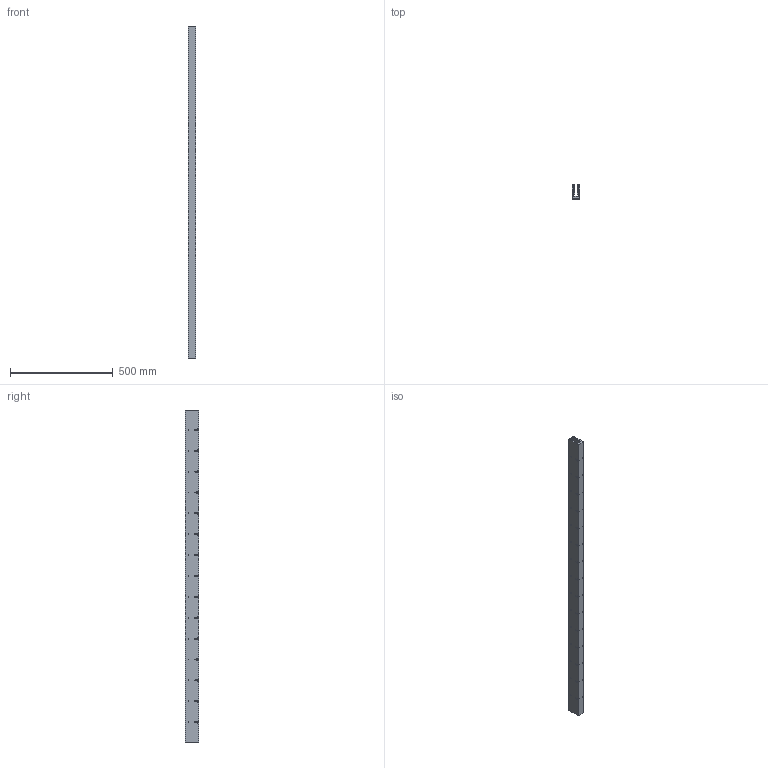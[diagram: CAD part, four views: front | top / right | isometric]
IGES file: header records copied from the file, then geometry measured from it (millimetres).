
Global section: file name: No Iges File Name specified; native system: Autodesk Inventor 2009; preprocessor: AutoDesk Inventor Iges Exporter R2009; author: je17857; date: 20091116.111811; units: inch
Bounding box: 34.29 x 67.31 x 1615.44 mm (x, y, z)
Volume: 2416696.9 mm3; surface area: 606423.4 mm2
Topology: 1 solids, 1 shells, 810 faces, 1926 edges, 1284 vertices
Faces by surface type: plane 570, bspline 240
